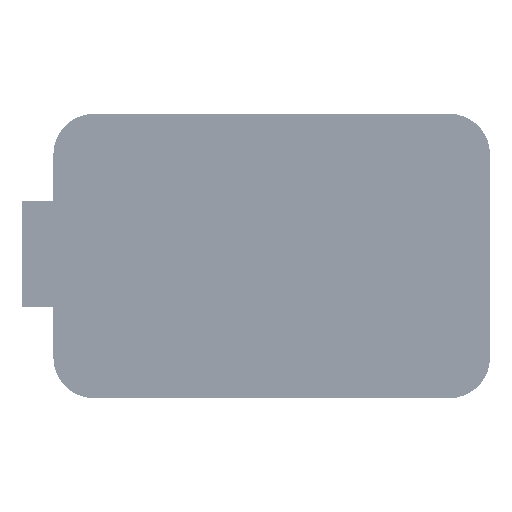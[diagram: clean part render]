
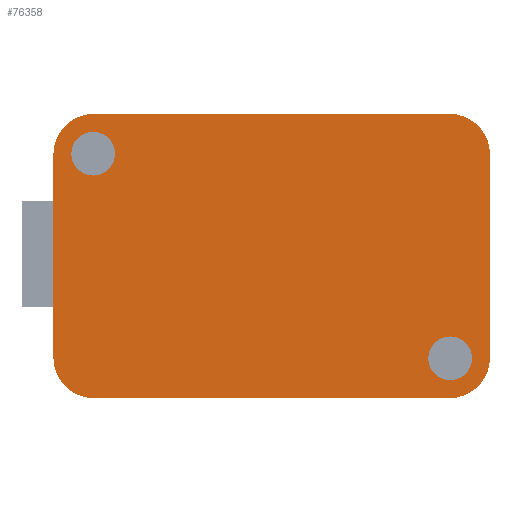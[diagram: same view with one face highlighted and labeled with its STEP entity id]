
A CAD part, front view. The second image highlights one B-rep face of the part: STEP entity #76358.
In plain terms, the highlighted planar face has unit normal (0, -1, 0).
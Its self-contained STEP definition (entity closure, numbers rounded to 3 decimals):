
#6309=FACE_BOUND('',#14042,.T.);
#6310=FACE_BOUND('',#14043,.T.);
#7236=CIRCLE('',#81199,5.2);
#7237=CIRCLE('',#81202,5.2);
#7238=CIRCLE('',#81205,5.2);
#7239=CIRCLE('',#81208,5.2);
#7242=CIRCLE('',#81218,2.8);
#7245=CIRCLE('',#81224,2.8);
#9639=FACE_OUTER_BOUND('',#14041,.T.);
#14041=EDGE_LOOP('',(#52402,#52403,#52404,#52405,#52406,#52407,#52408,#52409));
#14042=EDGE_LOOP('',(#52410));
#14043=EDGE_LOOP('',(#52411));
#19401=LINE('',#109570,#27134);
#19404=LINE('',#109578,#27137);
#19407=LINE('',#109586,#27140);
#19409=LINE('',#109592,#27142);
#27134=VECTOR('',#88189,10.);
#27137=VECTOR('',#88198,10.);
#27140=VECTOR('',#88207,10.);
#27142=VECTOR('',#88215,10.);
#34852=VERTEX_POINT('',#109562);
#34853=VERTEX_POINT('',#109564);
#34854=VERTEX_POINT('',#109568);
#34855=VERTEX_POINT('',#109572);
#34856=VERTEX_POINT('',#109576);
#34857=VERTEX_POINT('',#109580);
#34858=VERTEX_POINT('',#109584);
#34859=VERTEX_POINT('',#109588);
#34863=VERTEX_POINT('',#109610);
#34866=VERTEX_POINT('',#109621);
#41472=EDGE_CURVE('',#34852,#34853,#7236,.T.);
#41475=EDGE_CURVE('',#34854,#34852,#19401,.T.);
#41477=EDGE_CURVE('',#34855,#34854,#7237,.T.);
#41479=EDGE_CURVE('',#34856,#34855,#19404,.T.);
#41481=EDGE_CURVE('',#34857,#34856,#7238,.T.);
#41483=EDGE_CURVE('',#34858,#34857,#19407,.T.);
#41485=EDGE_CURVE('',#34859,#34858,#7239,.T.);
#41486=EDGE_CURVE('',#34853,#34859,#19409,.T.);
#41495=EDGE_CURVE('',#34863,#34863,#7242,.T.);
#41500=EDGE_CURVE('',#34866,#34866,#7245,.T.);
#52402=ORIENTED_EDGE('',*,*,#41481,.F.);
#52403=ORIENTED_EDGE('',*,*,#41483,.F.);
#52404=ORIENTED_EDGE('',*,*,#41485,.F.);
#52405=ORIENTED_EDGE('',*,*,#41486,.F.);
#52406=ORIENTED_EDGE('',*,*,#41472,.F.);
#52407=ORIENTED_EDGE('',*,*,#41475,.F.);
#52408=ORIENTED_EDGE('',*,*,#41477,.F.);
#52409=ORIENTED_EDGE('',*,*,#41479,.F.);
#52410=ORIENTED_EDGE('',*,*,#41495,.T.);
#52411=ORIENTED_EDGE('',*,*,#41500,.T.);
#73531=PLANE('',#81236);
#76358=ADVANCED_FACE('',(#9639,#6309,#6310),#73531,.F.);
#81199=AXIS2_PLACEMENT_3D('',#109565,#88183,#88184);
#81202=AXIS2_PLACEMENT_3D('',#109574,#88193,#88194);
#81205=AXIS2_PLACEMENT_3D('',#109582,#88202,#88203);
#81208=AXIS2_PLACEMENT_3D('',#109590,#88211,#88212);
#81218=AXIS2_PLACEMENT_3D('',#109611,#88238,#88239);
#81224=AXIS2_PLACEMENT_3D('',#109622,#88252,#88253);
#81236=AXIS2_PLACEMENT_3D('',#109645,#88287,#88288);
#88183=DIRECTION('center_axis',(0.,1.,0.));
#88184=DIRECTION('ref_axis',(0.,0.,-1.));
#88189=DIRECTION('',(-1.,0.,0.));
#88193=DIRECTION('center_axis',(0.,1.,0.));
#88194=DIRECTION('ref_axis',(1.,0.,0.));
#88198=DIRECTION('',(0.,0.,-1.));
#88202=DIRECTION('center_axis',(0.,1.,0.));
#88203=DIRECTION('ref_axis',(0.,0.,1.));
#88207=DIRECTION('',(1.,0.,0.));
#88211=DIRECTION('center_axis',(0.,1.,0.));
#88212=DIRECTION('ref_axis',(-1.,0.,0.));
#88215=DIRECTION('',(0.,0.,1.));
#88238=DIRECTION('center_axis',(0.,1.,0.));
#88239=DIRECTION('ref_axis',(0.,0.,-1.));
#88252=DIRECTION('center_axis',(0.,1.,0.));
#88253=DIRECTION('ref_axis',(0.,0.,-1.));
#88287=DIRECTION('center_axis',(0.,1.,0.));
#88288=DIRECTION('ref_axis',(1.,0.,0.));
#109562=CARTESIAN_POINT('',(-22.75,0.,-18.2));
#109564=CARTESIAN_POINT('',(-27.95,0.,-13.));
#109565=CARTESIAN_POINT('Origin',(-22.75,0.,-13.));
#109568=CARTESIAN_POINT('',(22.75,0.,-18.2));
#109570=CARTESIAN_POINT('',(22.75,0.,-18.2));
#109572=CARTESIAN_POINT('',(27.95,0.,-13.));
#109574=CARTESIAN_POINT('Origin',(22.75,0.,-13.));
#109576=CARTESIAN_POINT('',(27.95,0.,13.));
#109578=CARTESIAN_POINT('',(27.95,0.,13.));
#109580=CARTESIAN_POINT('',(22.75,0.,18.2));
#109582=CARTESIAN_POINT('Origin',(22.75,0.,13.));
#109584=CARTESIAN_POINT('',(-22.75,0.,18.2));
#109586=CARTESIAN_POINT('',(-22.75,0.,18.2));
#109588=CARTESIAN_POINT('',(-27.95,0.,13.));
#109590=CARTESIAN_POINT('Origin',(-22.75,0.,13.));
#109592=CARTESIAN_POINT('',(-27.95,0.,-13.));
#109610=CARTESIAN_POINT('',(22.85,0.,-10.3));
#109611=CARTESIAN_POINT('Origin',(22.85,0.,-13.1));
#109621=CARTESIAN_POINT('',(-22.85,0.,15.9));
#109622=CARTESIAN_POINT('Origin',(-22.85,0.,13.1));
#109645=CARTESIAN_POINT('Origin',(0.,0.,0.));
